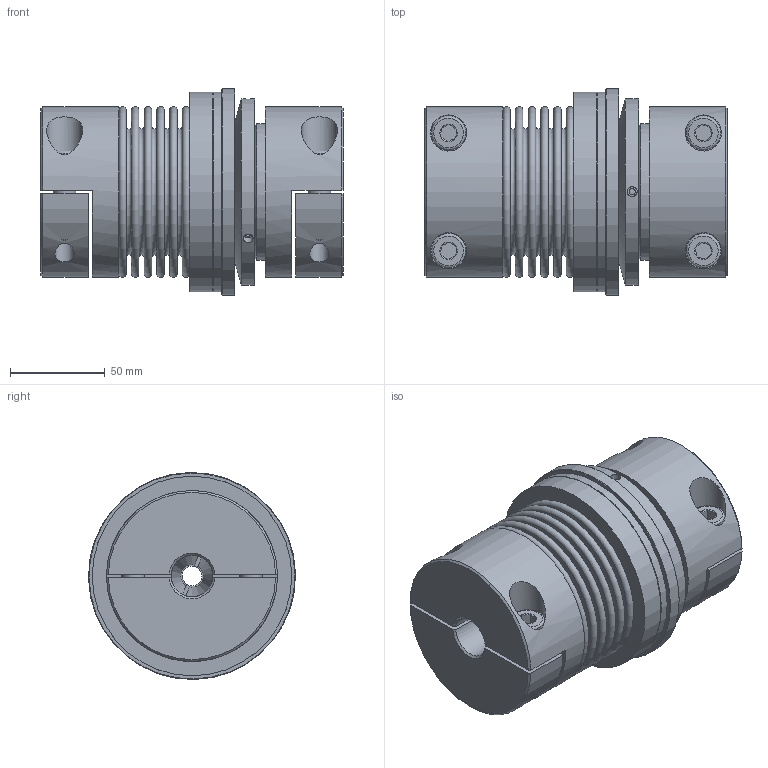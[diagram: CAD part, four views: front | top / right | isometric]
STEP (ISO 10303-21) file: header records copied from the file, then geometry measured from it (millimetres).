
FILE_DESCRIPTION( ( 'KBE1/14 - N7H8 - N14H7 - 98 Sh' ), '1' );
FILE_NAME( 'K:/Konstruktion/Fertigungszeichnungen/Überlastkupplung/KBK-B/KBK-BHH/200/KBK-BHH-200-159.stp', '14.12.2015', ( 'KBK-Antriebstechnik' ), ( 'KBK-Antriebstechnik' ), 'PSStep 16.0.42', 'Solid Edge St6', ' ' );
FILE_SCHEMA( ( 'AUTOMOTIVE_DESIGN { 1 0 10303 214 1 1 1 1 }' ) );
Length unit declared in the file: millimetre
Products named in the file (29): Flansch 200; Flansch BK200; a_50; KBK L-P-200 Grundkörper-oa1; KBK L-P-200 Grundkörper-oa0; Druckring 200; KB4H8 - für 200-oa5; Spreiznabe KB8-150-oa3; KN4H-200-oa4; inafag_61810-2rsr-y_8vud90mjf0oaml813imzz750k; inafag_61810-2rsr-y_8vud90mjf0oaml813imzz750k_01; inafag_61810-2rsr-y_8vud90mjf0oaml813imzz750k_02; inafag_61810-2rsr-y_8vud90mjf0oaml813imzz750k_03; inafag_61810-2rsr-y_8vud90mjf0oaml813imzz750k_04; inafag_61810-2rsr-y_8vud90mjf0oaml813imzz750k_05; inafag_61810-2rsr-y_8vud90mjf0oaml813imzz750k_06; inafag_61810-2rsr-y_8vud90mjf0oaml813imzz750k_07; inafag_61810-2rsr-y_8vud90mjf0oaml813imzz750k_08; inafag_61810-2rsr-y_8vud90mjf0oaml813imzz750k_09; Stellring 200; Assem1; KN4H-200-oa2; ISO EN DIN 4762 M12x35; BL200_Standard_0
Assembly tree (31 placements, depth 3):
  Assem1
    KN4H-200-oa2
    KN4H-200-oa2
    ISO EN DIN 4762 M12x35  x4
    BL200_Standard_0
    KBK L-P-200 Grundkörper-oa1
      KBK L-P-200 Grundkörper-oa0
    Stellring 200
      Stellring 200
    Druckring 200
      Druckring 200
    Flansch 200
      Flansch BK200
    a_50
      a_50
    inafag_61810-2rsr-y_8vud90mjf0oaml813imzz750k
      inafag_61810-2rsr-y_8vud90mjf0oaml813imzz750k_01
      inafag_61810-2rsr-y_8vud90mjf0oaml813imzz750k_02
      inafag_61810-2rsr-y_8vud90mjf0oaml813imzz750k_03
      inafag_61810-2rsr-y_8vud90mjf0oaml813imzz750k_04
      inafag_61810-2rsr-y_8vud90mjf0oaml813imzz750k_05
      inafag_61810-2rsr-y_8vud90mjf0oaml813imzz750k_06
      inafag_61810-2rsr-y_8vud90mjf0oaml813imzz750k_07
      inafag_61810-2rsr-y_8vud90mjf0oaml813imzz750k_08
      inafag_61810-2rsr-y_8vud90mjf0oaml813imzz750k_09
    KB4H8 - für 200-oa5
      Spreiznabe KB8-150-oa3
      KN4H-200-oa4
      KN4H-200-oa4
Bounding box: 159.15 x 108.98 x 108.98 mm (x, y, z)
Volume: 745740.9 mm3; surface area: 288927.8 mm2
Topology: 24 solids, 24 shells, 374 faces, 764 edges, 490 vertices
Faces by surface type: plane 152, cylinder 113, cone 64, torus 41, sphere 4
Full cylindrical faces by diameter (mm): 2.5 x2, 3.242 x3, 4.2 x4, 5.2 x6, 10.106 x4, 10.2 x3, 10.5 x1, 11 x4, 12 x8, 12.5 x4, 18 x5, 19 x4, 22 x2, 40 x1, 47 x1, 50 x3, 55.1 x4, 56.015 x1, 60 x1, 60.285 x1, 61.2 x2, 61.8 x4, 62 x1, 65 x2, 66 x2, 66.917 x1, 70.5 x1, 71 x2, 71.9 x1, 77 x1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
Entity records: 10902 total; most frequent: CARTESIAN_POINT 2776, DIRECTION 1336, ORIENTED_EDGE 856, AXIS2_PLACEMENT_3D 621, EDGE_LOOP 546, EDGE_CURVE 428, FACE_OUTER_BOUND 410, VERTEX_POINT 385
